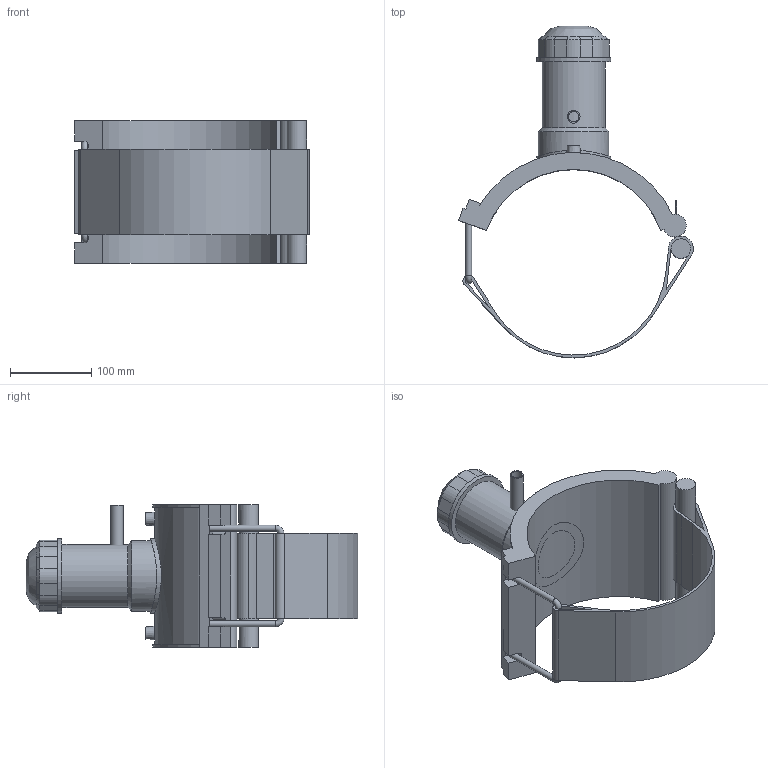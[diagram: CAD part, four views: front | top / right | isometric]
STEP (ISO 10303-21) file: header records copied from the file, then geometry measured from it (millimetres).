
FILE_DESCRIPTION(/* description */ ('PLASSON TAPPING SADDLE 8''''DIPS x 1/2''''CTS'),/* implementation_level */ '2;1');
FILE_NAME(/* name */ 'C:\Dropbox\KIMPROJECTS-Inventor 2019\99-16-3568-Processing Inch\ASTM ElectroFusion 2021\5963DBP_5963BUP\5963DUP3080005.ipt.stp',/* time_stamp */ '2021-08-30T09:59:05+03:00',/* author */ ('KIM'),/* organization */ (''),/* preprocessor_version */ 'ST-DEVELOPER v17.2',/* originating_system */ 'Autodesk Inventor 2019',/* authorisation */ '');
FILE_SCHEMA (('AUTOMOTIVE_DESIGN { 1 0 10303 214 3 1 1 }'));
Length unit declared in the file: inch
Products named in the file (1): 5963DUP3080005
Bounding box: 289.75 x 409.37 x 176.02 mm (x, y, z)
Volume: 1973998.2 mm3; surface area: 370330.7 mm2
Topology: 3 solids, 3 shells, 125 faces, 315 edges, 206 vertices
Faces by surface type: plane 69, cylinder 40, cone 13, torus 2, bspline 1
Full cylindrical faces by diameter (mm): 4 x2, 7.325 x2, 10 x2, 12.64 x1, 15.8 x1, 24.123 x1, 64.092 x1, 77.826 x1, 86.982 x1, 91.56 x2
Entity records: 4185 total; most frequent: CARTESIAN_POINT 1043, DIRECTION 661, ORIENTED_EDGE 632, EDGE_CURVE 316, AXIS2_PLACEMENT_3D 240, VERTEX_POINT 206, LINE 181, VECTOR 181
